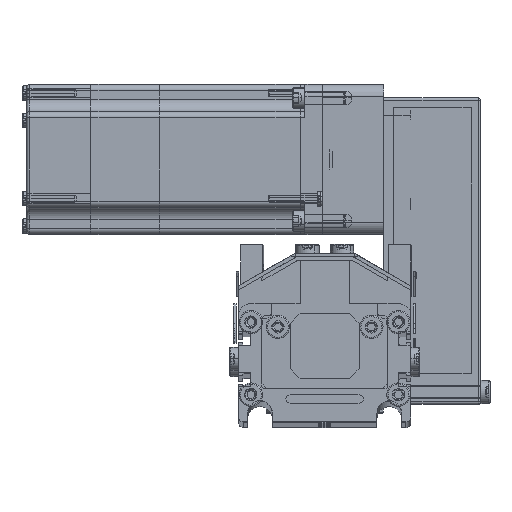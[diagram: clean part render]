
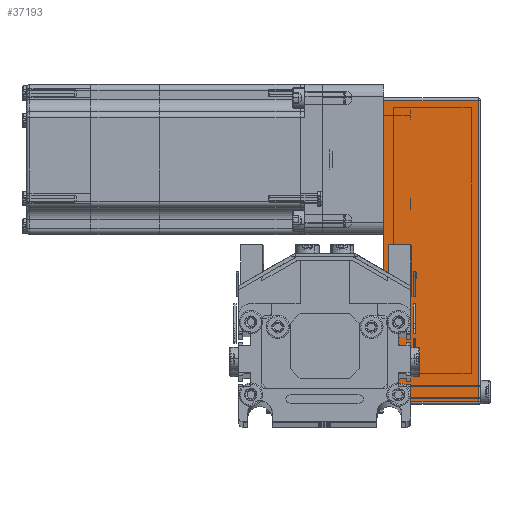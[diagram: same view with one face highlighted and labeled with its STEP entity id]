
A CAD part, top view. The second image highlights one B-rep face of the part: STEP entity #37193.
In plain terms, the highlighted planar face has unit normal (0, 0, 1) as drawn and (0, 1, 0) by its records, which use the part's own axes.
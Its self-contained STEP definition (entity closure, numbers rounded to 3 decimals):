
#36424 = ORIENTED_EDGE ( 'NONE', *, *, #36469, .T. ) ;
#36459 = VERTEX_POINT ( 'NONE', #126287 ) ;
#36462 = ORIENTED_EDGE ( 'NONE', *, *, #37218, .T. ) ;
#36463 = VERTEX_POINT ( 'NONE', #126480 ) ;
#36469 = EDGE_CURVE ( 'NONE', #36463, #37047, #126469, .T. ) ;
#36625 = EDGE_CURVE ( 'NONE', #37047, #36671, #126996, .T. ) ;
#36671 = VERTEX_POINT ( 'NONE', #127286 ) ;
#36802 = EDGE_CURVE ( 'NONE', #36671, #36459, #127840, .T. ) ;
#36804 = ORIENTED_EDGE ( 'NONE', *, *, #36625, .T. ) ;
#37047 = VERTEX_POINT ( 'NONE', #129203 ) ;
#37171 = EDGE_LOOP ( 'NONE', ( #36804, #37206, #36462, #36424 ) ) ;
#37193 = ADVANCED_FACE ( 'NONE', ( #130334 ), #130364, .F. ) ;
#37206 = ORIENTED_EDGE ( 'NONE', *, *, #36802, .T. ) ;
#37218 = EDGE_CURVE ( 'NONE', #36459, #36463, #130137, .T. ) ;
#126150 = CARTESIAN_POINT ( 'NONE',  ( 73.5, 25., 39.5 ) ) ;
#126287 = CARTESIAN_POINT ( 'NONE',  ( -49., 25., 38.5 ) ) ;
#126418 = DIRECTION ( 'NONE',  ( 0., 0., -1. ) ) ;
#126420 = VECTOR ( 'NONE', #126418, 1000. ) ;
#126469 = LINE ( 'NONE', #126150, #126420 ) ;
#126480 = CARTESIAN_POINT ( 'NONE',  ( 73.5, 25., 38.5 ) ) ;
#126954 = DIRECTION ( 'NONE',  ( -1., 0., 0. ) ) ;
#126994 = VECTOR ( 'NONE', #126954, 1000. ) ;
#126995 = CARTESIAN_POINT ( 'NONE',  ( -50., 25., 0. ) ) ;
#126996 = LINE ( 'NONE', #126995, #126994 ) ;
#127286 = CARTESIAN_POINT ( 'NONE',  ( -49., 25., 0. ) ) ;
#127840 = LINE ( 'NONE', #128133, #128132 ) ;
#128130 = DIRECTION ( 'NONE',  ( 0., 0., 1. ) ) ;
#128132 = VECTOR ( 'NONE', #128130, 1000. ) ;
#128133 = CARTESIAN_POINT ( 'NONE',  ( -49., 25., 39.5 ) ) ;
#129203 = CARTESIAN_POINT ( 'NONE',  ( 73.5, 25., 0. ) ) ;
#130119 = DIRECTION ( 'NONE',  ( 1., 0., 0. ) ) ;
#130120 = VECTOR ( 'NONE', #130119, 1000. ) ;
#130130 = AXIS2_PLACEMENT_3D ( 'NONE', #130175, #130173, #130171 ) ;
#130135 = CARTESIAN_POINT ( 'NONE',  ( 74.5, 25., 38.5 ) ) ;
#130137 = LINE ( 'NONE', #130135, #130120 ) ;
#130171 = DIRECTION ( 'NONE',  ( 0., 0., -1. ) ) ;
#130173 = DIRECTION ( 'NONE',  ( 0., -1., 0. ) ) ;
#130175 = CARTESIAN_POINT ( 'NONE',  ( -50., 25., 39.5 ) ) ;
#130334 = FACE_OUTER_BOUND ( 'NONE', #37171, .T. ) ;
#130364 = PLANE ( 'NONE',  #130130 ) ;
